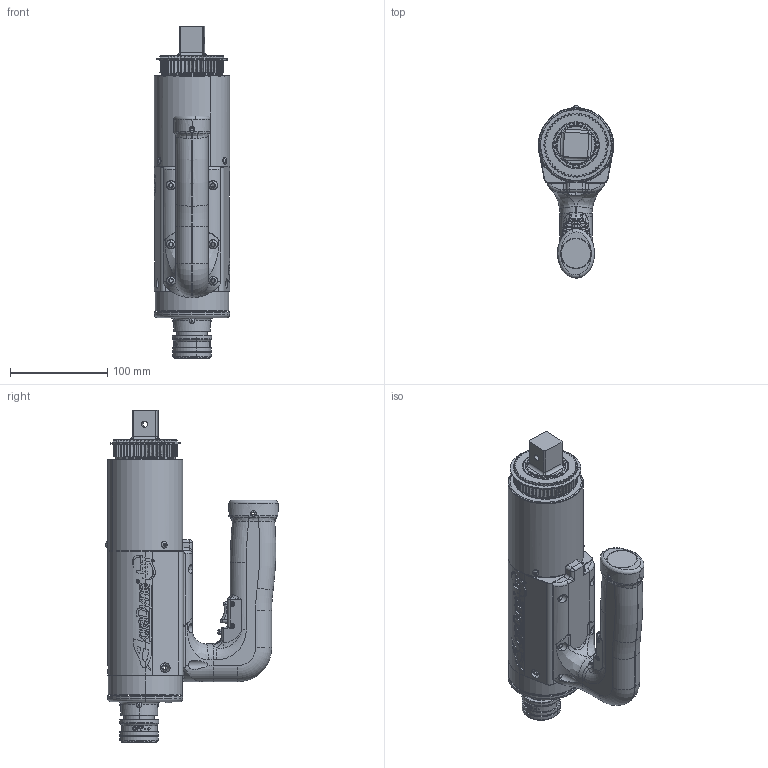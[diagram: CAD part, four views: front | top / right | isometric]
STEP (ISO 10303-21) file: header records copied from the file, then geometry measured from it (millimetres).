
FILE_DESCRIPTION (( 'STEP AP214' ), '1' );
FILE_NAME ('AEJ4A771000B.STEP', '2022-07-18T21:54:33', ( '' ), ( '' ), 'SwSTEP 2.0', 'SolidWorks 2022', '' );
FILE_SCHEMA (( 'AUTOMOTIVE_DESIGN' ));
Length unit declared in the file: inch
Products named in the file (1): AEJ4A771000B
Bounding box: 77.47 x 177.48 x 342.25 mm (x, y, z)
Surface area: 185835.3 mm2 (no closed solid volume)
Topology: 0 solids, 78 shells, 1301 faces, 4990 edges, 3568 vertices
Faces by surface type: cylinder 449, plane 355, bspline 229, torus 148, cone 112, sphere 8
Entity records: 126609 total; most frequent: CARTESIAN_POINT 72210, ORIENTED_EDGE 7878, DIRECTION 6703, EDGE_CURVE 4984, VERTEX_POINT 3568, AXIS2_PLACEMENT_3D 2475, VECTOR 1753, LINE 1753
